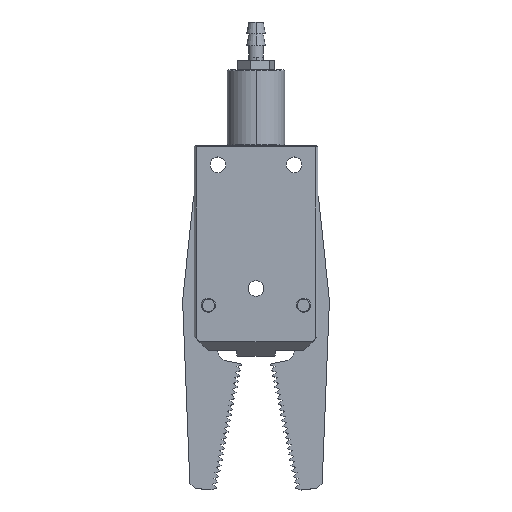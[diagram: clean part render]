
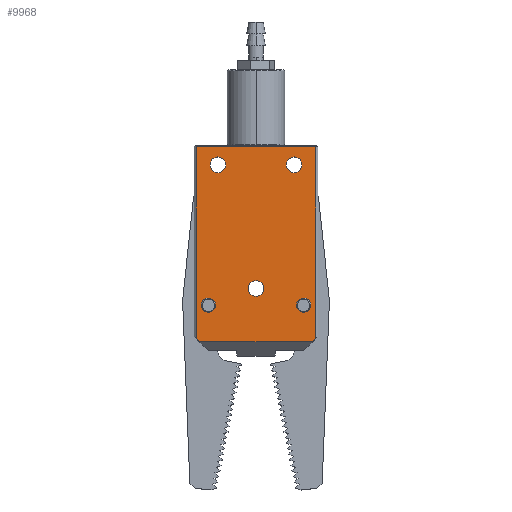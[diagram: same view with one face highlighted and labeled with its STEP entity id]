
A CAD part, top view. The second image highlights one B-rep face of the part: STEP entity #9968.
In plain terms, the highlighted planar face has unit normal (0, 0, 1).
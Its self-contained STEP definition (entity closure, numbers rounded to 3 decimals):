
#304 = CARTESIAN_POINT ( 'NONE',  ( 0.981, -12.921, 66.7 ) ) ;
#395 = CIRCLE ( 'NONE', #32375, 1.65 ) ;
#565 = ORIENTED_EDGE ( 'NONE', *, *, #10900, .T. ) ;
#1119 = AXIS2_PLACEMENT_3D ( 'NONE', #35429, #10677, #31705 ) ;
#1491 = EDGE_CURVE ( 'NONE', #36521, #18487, #36647, .T. ) ;
#1515 = FACE_BOUND ( 'NONE', #20092, .T. ) ;
#1526 = CARTESIAN_POINT ( 'NONE',  ( -17.019, 18.229, 66.7 ) ) ;
#1690 = LINE ( 'NONE', #28241, #16196 ) ;
#2359 = EDGE_LOOP ( 'NONE', ( #25465, #6726, #19610, #18554, #2644, #20726 ) ) ;
#2644 = ORIENTED_EDGE ( 'NONE', *, *, #5139, .F. ) ;
#2758 = CIRCLE ( 'NONE', #12319, 1.65 ) ;
#2979 = DIRECTION ( 'NONE',  ( 0., 1., 0. ) ) ;
#3011 = DIRECTION ( 'NONE',  ( 0., 0., -1. ) ) ;
#3063 = CARTESIAN_POINT ( 'NONE',  ( -9.019, -9.421, 66.7 ) ) ;
#3205 = ORIENTED_EDGE ( 'NONE', *, *, #17989, .F. ) ;
#3206 = EDGE_LOOP ( 'NONE', ( #31760, #35141 ) ) ;
#3607 = CARTESIAN_POINT ( 'NONE',  ( 3.481, -20.571, 66.7 ) ) ;
#3964 = VECTOR ( 'NONE', #7343, 1000. ) ;
#4059 = CARTESIAN_POINT ( 'NONE',  ( -21.519, -19.921, 66.7 ) ) ;
#4484 = DIRECTION ( 'NONE',  ( -0.707, 0.707, 0. ) ) ;
#4616 = CARTESIAN_POINT ( 'NONE',  ( -20.869, -20.571, 66.7 ) ) ;
#4650 = CARTESIAN_POINT ( 'NONE',  ( -19.019, -14.421, 66.7 ) ) ;
#4907 = AXIS2_PLACEMENT_3D ( 'NONE', #14285, #14138, #14041 ) ;
#5007 = VERTEX_POINT ( 'NONE', #31957 ) ;
#5139 = EDGE_CURVE ( 'NONE', #13861, #31725, #24577, .T. ) ;
#5336 = DIRECTION ( 'NONE',  ( -1., 0., 0. ) ) ;
#5435 = PLANE ( 'NONE',  #13838 ) ;
#5517 = CARTESIAN_POINT ( 'NONE',  ( 2.831, -20.571, 66.7 ) ) ;
#5678 = CARTESIAN_POINT ( 'NONE',  ( 3.481, -20.571, 66.7 ) ) ;
#6038 = DIRECTION ( 'NONE',  ( 0., 0., -1. ) ) ;
#6507 = CIRCLE ( 'NONE', #15271, 1.5 ) ;
#6704 = DIRECTION ( 'NONE',  ( 0., 1., 0. ) ) ;
#6726 = ORIENTED_EDGE ( 'NONE', *, *, #29646, .F. ) ;
#6792 = CARTESIAN_POINT ( 'NONE',  ( 3.481, -19.921, 66.7 ) ) ;
#6819 = ORIENTED_EDGE ( 'NONE', *, *, #1491, .F. ) ;
#6896 = EDGE_CURVE ( 'NONE', #20017, #33329, #36300, .T. ) ;
#7110 = VERTEX_POINT ( 'NONE', #19902 ) ;
#7137 = DIRECTION ( 'NONE',  ( 0., 0., 1. ) ) ;
#7214 = CARTESIAN_POINT ( 'NONE',  ( 3.481, -20.571, 66.7 ) ) ;
#7257 = CARTESIAN_POINT ( 'NONE',  ( -19.019, -12.921, 66.7 ) ) ;
#7343 = DIRECTION ( 'NONE',  ( -1., 0., 0. ) ) ;
#7464 = VERTEX_POINT ( 'NONE', #5517 ) ;
#7724 = ORIENTED_EDGE ( 'NONE', *, *, #25695, .F. ) ;
#8230 = FACE_OUTER_BOUND ( 'NONE', #2359, .T. ) ;
#9057 = VECTOR ( 'NONE', #33022, 1000. ) ;
#9899 = CARTESIAN_POINT ( 'NONE',  ( -1.019, 16.579, 66.7 ) ) ;
#9968 = ADVANCED_FACE ( 'NONE', ( #8230, #30453, #1515, #23781, #22884, #15103 ), #5435, .F. ) ;
#9987 = EDGE_CURVE ( 'NONE', #32513, #13861, #36115, .T. ) ;
#9989 = CIRCLE ( 'NONE', #1119, 1.65 ) ;
#9990 = DIRECTION ( 'NONE',  ( 0., 0., -1. ) ) ;
#10035 = DIRECTION ( 'NONE',  ( 0., 1., 0. ) ) ;
#10677 = DIRECTION ( 'NONE',  ( 0., 0., -1. ) ) ;
#10900 = EDGE_CURVE ( 'NONE', #21908, #5007, #11361, .T. ) ;
#11361 = CIRCLE ( 'NONE', #4907, 1.65 ) ;
#11377 = CIRCLE ( 'NONE', #27113, 1.65 ) ;
#11524 = DIRECTION ( 'NONE',  ( 0., 1., 0. ) ) ;
#11529 = DIRECTION ( 'NONE',  ( 0., 0., 1. ) ) ;
#11574 = CARTESIAN_POINT ( 'NONE',  ( -19.019, -12.921, 66.7 ) ) ;
#11773 = EDGE_CURVE ( 'NONE', #7110, #24291, #15395, .T. ) ;
#12092 = DIRECTION ( 'NONE',  ( 0., 1., 0. ) ) ;
#12101 = DIRECTION ( 'NONE',  ( 0., 0., -1. ) ) ;
#12245 = CARTESIAN_POINT ( 'NONE',  ( -17.019, 16.579, 66.7 ) ) ;
#12319 = AXIS2_PLACEMENT_3D ( 'NONE', #3063, #3011, #2979 ) ;
#13273 = VECTOR ( 'NONE', #4484, 1000. ) ;
#13518 = LINE ( 'NONE', #7214, #3964 ) ;
#13689 = EDGE_LOOP ( 'NONE', ( #29479, #24567 ) ) ;
#13838 = AXIS2_PLACEMENT_3D ( 'NONE', #5678, #6038, #5336 ) ;
#13861 = VERTEX_POINT ( 'NONE', #4059 ) ;
#14041 = DIRECTION ( 'NONE',  ( 0., 1., 0. ) ) ;
#14138 = DIRECTION ( 'NONE',  ( 0., 0., -1. ) ) ;
#14285 = CARTESIAN_POINT ( 'NONE',  ( -9.019, -9.421, 66.7 ) ) ;
#15103 = FACE_BOUND ( 'NONE', #36940, .T. ) ;
#15146 = CARTESIAN_POINT ( 'NONE',  ( -21.519, 20.379, 66.7 ) ) ;
#15271 = AXIS2_PLACEMENT_3D ( 'NONE', #11574, #11529, #11524 ) ;
#15395 = CIRCLE ( 'NONE', #21271, 1.5 ) ;
#16196 = VECTOR ( 'NONE', #28316, 1000. ) ;
#16828 = LINE ( 'NONE', #3607, #23662 ) ;
#17989 = EDGE_CURVE ( 'NONE', #24291, #7110, #33743, .T. ) ;
#18190 = VERTEX_POINT ( 'NONE', #1526 ) ;
#18487 = VERTEX_POINT ( 'NONE', #25706 ) ;
#18554 = ORIENTED_EDGE ( 'NONE', *, *, #29912, .F. ) ;
#19610 = ORIENTED_EDGE ( 'NONE', *, *, #23635, .F. ) ;
#19840 = CARTESIAN_POINT ( 'NONE',  ( 3.481, 20.379, 66.7 ) ) ;
#19902 = CARTESIAN_POINT ( 'NONE',  ( 0.981, -14.421, 66.7 ) ) ;
#20017 = VERTEX_POINT ( 'NONE', #20576 ) ;
#20092 = EDGE_LOOP ( 'NONE', ( #3205, #35063 ) ) ;
#20149 = ORIENTED_EDGE ( 'NONE', *, *, #31486, .T. ) ;
#20576 = CARTESIAN_POINT ( 'NONE',  ( -1.019, 14.929, 66.7 ) ) ;
#20726 = ORIENTED_EDGE ( 'NONE', *, *, #9987, .F. ) ;
#21271 = AXIS2_PLACEMENT_3D ( 'NONE', #304, #22910, #27387 ) ;
#21908 = VERTEX_POINT ( 'NONE', #34552 ) ;
#22884 = FACE_BOUND ( 'NONE', #13689, .T. ) ;
#22910 = DIRECTION ( 'NONE',  ( 0., 0., 1. ) ) ;
#23273 = DIRECTION ( 'NONE',  ( 0., 1., 0. ) ) ;
#23388 = DIRECTION ( 'NONE',  ( 0., 0., 1. ) ) ;
#23451 = CARTESIAN_POINT ( 'NONE',  ( -1.019, 18.229, 66.7 ) ) ;
#23632 = CARTESIAN_POINT ( 'NONE',  ( 0.981, -12.921, 66.7 ) ) ;
#23635 = EDGE_CURVE ( 'NONE', #27511, #23927, #16828, .T. ) ;
#23662 = VECTOR ( 'NONE', #31011, 1000. ) ;
#23781 = FACE_BOUND ( 'NONE', #3206, .T. ) ;
#23927 = VERTEX_POINT ( 'NONE', #6792 ) ;
#24185 = EDGE_LOOP ( 'NONE', ( #7724, #6819 ) ) ;
#24291 = VERTEX_POINT ( 'NONE', #33276 ) ;
#24563 = AXIS2_PLACEMENT_3D ( 'NONE', #29664, #29579, #29505 ) ;
#24567 = ORIENTED_EDGE ( 'NONE', *, *, #31880, .T. ) ;
#24577 = LINE ( 'NONE', #35227, #9057 ) ;
#25465 = ORIENTED_EDGE ( 'NONE', *, *, #28999, .F. ) ;
#25695 = EDGE_CURVE ( 'NONE', #18487, #36521, #6507, .T. ) ;
#25706 = CARTESIAN_POINT ( 'NONE',  ( -19.019, -11.421, 66.7 ) ) ;
#27113 = AXIS2_PLACEMENT_3D ( 'NONE', #12245, #12101, #12092 ) ;
#27387 = DIRECTION ( 'NONE',  ( 0., 1., 0. ) ) ;
#27511 = VERTEX_POINT ( 'NONE', #19840 ) ;
#28241 = CARTESIAN_POINT ( 'NONE',  ( 3.481, -19.921, 66.7 ) ) ;
#28316 = DIRECTION ( 'NONE',  ( -0.707, -0.707, 0. ) ) ;
#28587 = CARTESIAN_POINT ( 'NONE',  ( -17.019, 14.929, 66.7 ) ) ;
#28999 = EDGE_CURVE ( 'NONE', #7464, #32513, #13518, .T. ) ;
#29121 = EDGE_CURVE ( 'NONE', #33329, #20017, #395, .T. ) ;
#29332 = CARTESIAN_POINT ( 'NONE',  ( -20.869, -20.571, 66.7 ) ) ;
#29479 = ORIENTED_EDGE ( 'NONE', *, *, #31092, .T. ) ;
#29505 = DIRECTION ( 'NONE',  ( 0., 1., 0. ) ) ;
#29579 = DIRECTION ( 'NONE',  ( 0., 0., -1. ) ) ;
#29646 = EDGE_CURVE ( 'NONE', #23927, #7464, #1690, .T. ) ;
#29664 = CARTESIAN_POINT ( 'NONE',  ( -1.019, 16.579, 66.7 ) ) ;
#29912 = EDGE_CURVE ( 'NONE', #31725, #27511, #35836, .T. ) ;
#30453 = FACE_BOUND ( 'NONE', #24185, .T. ) ;
#31011 = DIRECTION ( 'NONE',  ( 0., -1., 0. ) ) ;
#31092 = EDGE_CURVE ( 'NONE', #18190, #32560, #11377, .T. ) ;
#31486 = EDGE_CURVE ( 'NONE', #5007, #21908, #2758, .T. ) ;
#31705 = DIRECTION ( 'NONE',  ( 0., 1., 0. ) ) ;
#31725 = VERTEX_POINT ( 'NONE', #15146 ) ;
#31760 = ORIENTED_EDGE ( 'NONE', *, *, #29121, .T. ) ;
#31880 = EDGE_CURVE ( 'NONE', #32560, #18190, #9989, .T. ) ;
#31957 = CARTESIAN_POINT ( 'NONE',  ( -9.019, -7.771, 66.7 ) ) ;
#32375 = AXIS2_PLACEMENT_3D ( 'NONE', #9899, #9990, #10035 ) ;
#32513 = VERTEX_POINT ( 'NONE', #29332 ) ;
#32560 = VERTEX_POINT ( 'NONE', #28587 ) ;
#33022 = DIRECTION ( 'NONE',  ( 0., 1., 0. ) ) ;
#33276 = CARTESIAN_POINT ( 'NONE',  ( 0.981, -11.421, 66.7 ) ) ;
#33329 = VERTEX_POINT ( 'NONE', #23451 ) ;
#33743 = CIRCLE ( 'NONE', #34084, 1.5 ) ;
#34084 = AXIS2_PLACEMENT_3D ( 'NONE', #23632, #23388, #23273 ) ;
#34552 = CARTESIAN_POINT ( 'NONE',  ( -9.019, -11.071, 66.7 ) ) ;
#34970 = VECTOR ( 'NONE', #35343, 1000. ) ;
#35063 = ORIENTED_EDGE ( 'NONE', *, *, #11773, .F. ) ;
#35141 = ORIENTED_EDGE ( 'NONE', *, *, #6896, .T. ) ;
#35227 = CARTESIAN_POINT ( 'NONE',  ( -21.519, -20.571, 66.7 ) ) ;
#35269 = CARTESIAN_POINT ( 'NONE',  ( 3.481, 20.379, 66.7 ) ) ;
#35343 = DIRECTION ( 'NONE',  ( 1., 0., 0. ) ) ;
#35429 = CARTESIAN_POINT ( 'NONE',  ( -17.019, 16.579, 66.7 ) ) ;
#35836 = LINE ( 'NONE', #35269, #34970 ) ;
#36115 = LINE ( 'NONE', #4616, #13273 ) ;
#36300 = CIRCLE ( 'NONE', #24563, 1.65 ) ;
#36314 = AXIS2_PLACEMENT_3D ( 'NONE', #7257, #7137, #6704 ) ;
#36521 = VERTEX_POINT ( 'NONE', #4650 ) ;
#36647 = CIRCLE ( 'NONE', #36314, 1.5 ) ;
#36940 = EDGE_LOOP ( 'NONE', ( #20149, #565 ) ) ;
